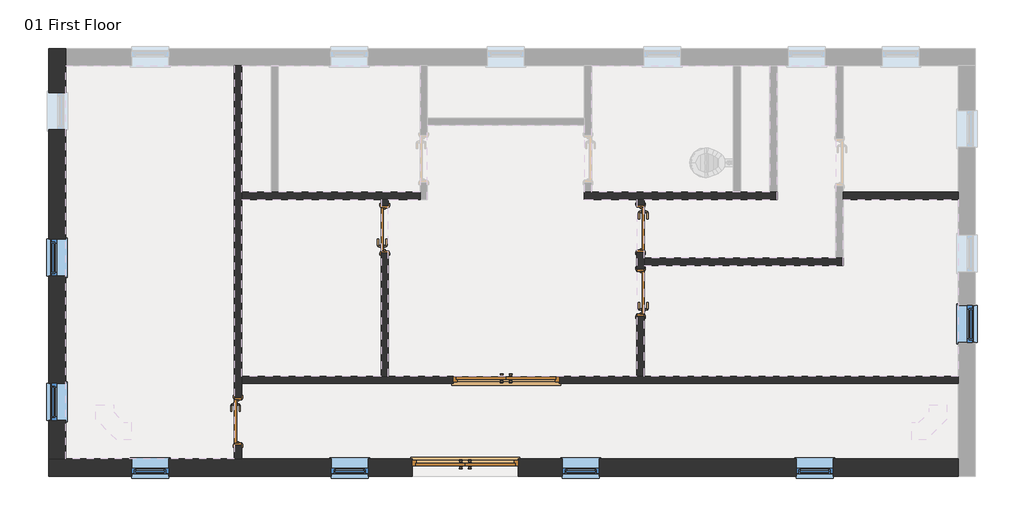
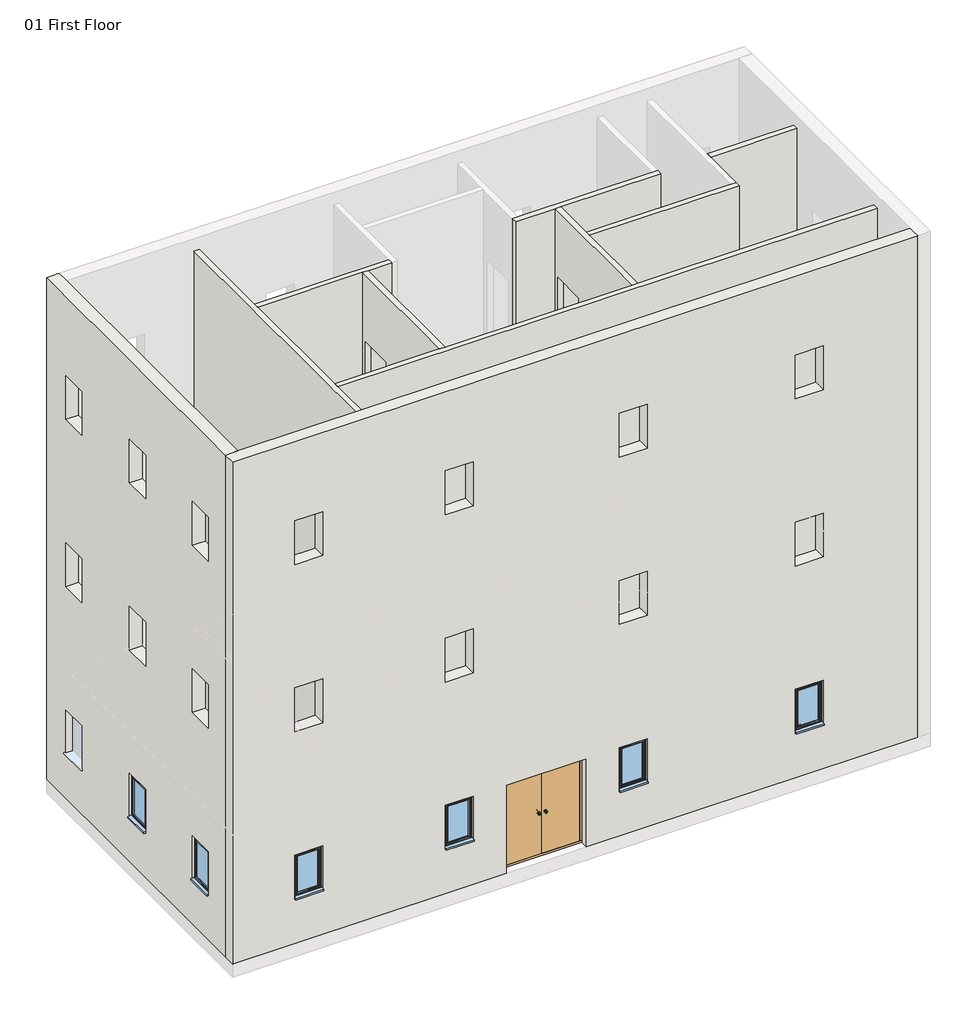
# One storey, part 1 of 2: 10 walls, 7 windows, 6 doors.
"""IFC4 building model written with IfcOpenShell, lengths in millimetres."""

from ifc_helpers import new_model, si_unit, frame, origin, origin_with_axes, place, context, project, spatial, polyline, outline, extrude, faceted_brep, transform, mapped, element, save
from components import extdbl_flush_1810_x_2110mm_6485e741, extdbl_flush_1810_x_2110mm_182ebfd7, intsgl_1_810_x_2110mm_5ef26f82, intsgl_1_810_x_2110mm_60c2a13c, sgl_plain_630_x_1050mm_deep_554a1539

model = new_model("IFC4")

# Units and contexts
model_context = context("Model", 3, world=origin())
ifc_project = project(units=[si_unit("LENGTHUNIT", "METRE", prefix="MILLI")], contexts=[model_context])

# Site, building, storey
site = spatial("IfcSite", under=ifc_project)
building = spatial("IfcBuilding", under=site)
storey = spatial("IfcBuildingStorey", under=building, Name="01 First Floor", Elevation=0.0)

# Doors
placement = place(None, origin())
extdbl_flush_1810_x_2110mm_shape = extdbl_flush_1810_x_2110mm_6485e741(model_context)
element("IfcDoor", 1, ObjectType="ExtDbl Flush : 1810 x 2110mm", at=placement, inside=storey, context=model_context, shape_type="MappedRepresentation", body=[
    mapped(extdbl_flush_1810_x_2110mm_shape, transform((500.7801388, -4965.3924179, 0.0), x_axis=(1.0, 0.0, 0.0), y_axis=(0.0, 1.0, 0.0), z_axis=(0.0, 0.0, 1.0))),
])
extdbl_flush_1810_x_2110mm_2_shape = extdbl_flush_1810_x_2110mm_182ebfd7(model_context)
element("IfcDoor", 2, ObjectType="ExtDbl Flush : 1810 x 2110mm", at=placement, inside=storey, context=model_context, shape_type="MappedRepresentation", body=[
    mapped(extdbl_flush_1810_x_2110mm_2_shape, transform((1196.9801388, -3470.3924179, 0.0), x_axis=(1.0, 0.0, 0.0), y_axis=(0.0, 1.0, 0.0), z_axis=(0.0, 0.0, 1.0))),
])
intsgl_1_810_x_2110mm_shape = intsgl_1_810_x_2110mm_5ef26f82(model_context)
element("IfcDoor", 3, ObjectType="IntSgl (1) : 810 x 2110mm", at=placement, inside=storey, context=model_context, shape_type="MappedRepresentation", body=[
    mapped(intsgl_1_810_x_2110mm_shape, transform((3489.4801388, -1982.8924179, 0.0), x_axis=(0.0, 1.0, 0.0), y_axis=(-1.0, 0.0, 0.0), z_axis=(0.0, 0.0, 1.0))),
])
intsgl_1_810_x_2110mm_2_shape = intsgl_1_810_x_2110mm_60c2a13c(model_context)
element("IfcDoor", 4, ObjectType="IntSgl (1) : 810 x 2110mm", at=placement, inside=storey, context=model_context, shape_type="MappedRepresentation", body=[
    mapped(intsgl_1_810_x_2110mm_2_shape, transform((-870.5198612, -902.8924179, 0.0), x_axis=(0.0, 1.0, 0.0), y_axis=(-1.0, 0.0, 0.0), z_axis=(0.0, 0.0, 1.0))),
])
element("IfcDoor", 5, ObjectType="IntSgl (1) : 810 x 2110mm", at=placement, inside=storey, context=model_context, shape_type="MappedRepresentation", body=[
    mapped(intsgl_1_810_x_2110mm_2_shape, transform((3489.4801388, -890.3924179, 0.0), x_axis=(0.0, -1.0, 0.0), y_axis=(1.0, 0.0, 0.0), z_axis=(0.0, 0.0, 1.0))),
])
element("IfcDoor", 6, ObjectType="IntSgl (1) : 810 x 2110mm", at=placement, inside=storey, context=model_context, shape_type="MappedRepresentation", body=[
    mapped(intsgl_1_810_x_2110mm_shape, transform((-3370.5198612, -4176.6424179, 0.0), x_axis=(0.0, -1.0, 0.0), y_axis=(1.0, 0.0, 0.0), z_axis=(0.0, 0.0, 1.0))),
])

# Walls
element("IfcWall", 7, ObjectType="Cav - 102 75i 100 p - Lwt", at=placement, inside=storey, context=model_context, shape_type="Brep", body=[
    faceted_brep([(1405.7801388, -5110.3924179, 2110.0), (1405.7801388, -5110.3924179, 0.0), (8901.9801388, -5110.3924179, 0.0), (8901.9801388, -5110.3924179, 12000.0), (-6598.0198612, -5110.3924179, 12000.0), (-6598.0198612, -5110.3924179, 0.0), (-404.2198612, -5110.3924179, 0.0), (-404.2198612, -5110.3924179, 2110.0), (6768.3801388, -5110.3924179, 2110.0), (6768.3801388, -5110.3924179, 1060.0), (6138.3801388, -5110.3924179, 1060.0), (6138.3801388, -5110.3924179, 2110.0), (2785.5801388, -5110.3924179, 2110.0), (2785.5801388, -5110.3924179, 1060.0), (2155.5801388, -5110.3924179, 1060.0), (2155.5801388, -5110.3924179, 2110.0), (-1154.0198612, -5110.3924179, 2110.0), (-1154.0198612, -5110.3924179, 1060.0), (-1784.0198612, -5110.3924179, 1060.0), (-1784.0198612, -5110.3924179, 2110.0), (-4555.5198612, -5110.3924179, 2110.0), (-4555.5198612, -5110.3924179, 1060.0), (-5185.5198612, -5110.3924179, 1060.0), (-5185.5198612, -5110.3924179, 2110.0), (-4555.5198612, -5110.3924179, 6110.0), (-4555.5198612, -5110.3924179, 5060.0), (-5185.5198612, -5110.3924179, 5060.0), (-5185.5198612, -5110.3924179, 6110.0), (-1154.0198612, -5110.3924179, 6110.0), (-1154.0198612, -5110.3924179, 5060.0), (-1784.0198612, -5110.3924179, 5060.0), (-1784.0198612, -5110.3924179, 6110.0), (2785.5801388, -5110.3924179, 6110.0), (2785.5801388, -5110.3924179, 5060.0), (2155.5801388, -5110.3924179, 5060.0), (2155.5801388, -5110.3924179, 6110.0), (6768.3801388, -5110.3924179, 6110.0), (6768.3801388, -5110.3924179, 5060.0), (6138.3801388, -5110.3924179, 5060.0), (6138.3801388, -5110.3924179, 6110.0), (-4555.5198612, -5110.3924179, 10110.0), (-4555.5198612, -5110.3924179, 9060.0), (-5185.5198612, -5110.3924179, 9060.0), (-5185.5198612, -5110.3924179, 10110.0), (-1154.0198612, -5110.3924179, 10110.0), (-1154.0198612, -5110.3924179, 9060.0), (-1784.0198612, -5110.3924179, 9060.0), (-1784.0198612, -5110.3924179, 10110.0), (2785.5801388, -5110.3924179, 10110.0), (2785.5801388, -5110.3924179, 9060.0), (2155.5801388, -5110.3924179, 9060.0), (2155.5801388, -5110.3924179, 10110.0), (6768.3801388, -5110.3924179, 10110.0), (6768.3801388, -5110.3924179, 9060.0), (6138.3801388, -5110.3924179, 9060.0), (6138.3801388, -5110.3924179, 10110.0), (8901.9801388, -4820.3924179, 0.0), (1405.7801388, -4820.3924179, 0.0), (1405.7801388, -4820.3924179, 2110.0), (-404.2198612, -4820.3924179, 2110.0), (-404.2198612, -4820.3924179, 0.0), (-3308.0198612, -4820.3924179, 0.0), (-3433.0198612, -4820.3924179, 0.0), (-6308.0198612, -4820.3924179, 0.0), (-6598.0198612, -4820.3924179, 0.0), (-6598.0198612, -4820.3924179, 12000.0), (-6308.0198612, -4820.3924179, 12000.0), (8901.9801388, -4820.3924179, 12000.0), (6768.3801388, -4820.3924179, 2110.0), (6138.3801388, -4820.3924179, 2110.0), (6138.3801388, -4820.3924179, 1060.0), (6768.3801388, -4820.3924179, 1060.0), (2785.5801388, -4820.3924179, 2110.0), (2155.5801388, -4820.3924179, 2110.0), (2155.5801388, -4820.3924179, 1060.0), (2785.5801388, -4820.3924179, 1060.0), (-1154.0198612, -4820.3924179, 2110.0), (-1784.0198612, -4820.3924179, 2110.0), (-1784.0198612, -4820.3924179, 1060.0), (-1154.0198612, -4820.3924179, 1060.0), (-4555.5198612, -4820.3924179, 2110.0), (-5185.5198612, -4820.3924179, 2110.0), (-5185.5198612, -4820.3924179, 1060.0), (-4555.5198612, -4820.3924179, 1060.0), (-4555.5198612, -4820.3924179, 6110.0), (-5185.5198612, -4820.3924179, 6110.0), (-5185.5198612, -4820.3924179, 5060.0), (-4555.5198612, -4820.3924179, 5060.0), (-1154.0198612, -4820.3924179, 6110.0), (-1784.0198612, -4820.3924179, 6110.0), (-1784.0198612, -4820.3924179, 5060.0), (-1154.0198612, -4820.3924179, 5060.0), (2785.5801388, -4820.3924179, 6110.0), (2155.5801388, -4820.3924179, 6110.0), (2155.5801388, -4820.3924179, 5060.0), (2785.5801388, -4820.3924179, 5060.0), (6768.3801388, -4820.3924179, 6110.0), (6138.3801388, -4820.3924179, 6110.0), (6138.3801388, -4820.3924179, 5060.0), (6768.3801388, -4820.3924179, 5060.0), (-4555.5198612, -4820.3924179, 10110.0), (-5185.5198612, -4820.3924179, 10110.0), (-5185.5198612, -4820.3924179, 9060.0), (-4555.5198612, -4820.3924179, 9060.0), (-1154.0198612, -4820.3924179, 10110.0), (-1784.0198612, -4820.3924179, 10110.0), (-1784.0198612, -4820.3924179, 9060.0), (-1154.0198612, -4820.3924179, 9060.0), (2785.5801388, -4820.3924179, 10110.0), (2155.5801388, -4820.3924179, 10110.0), (2155.5801388, -4820.3924179, 9060.0), (2785.5801388, -4820.3924179, 9060.0), (6768.3801388, -4820.3924179, 10110.0), (6138.3801388, -4820.3924179, 10110.0), (6138.3801388, -4820.3924179, 9060.0), (6768.3801388, -4820.3924179, 9060.0)], [[[0, 1, 2, 3, 4, 5, 6, 7], [8, 9, 10, 11], [12, 13, 14, 15], [16, 17, 18, 19], [20, 21, 22, 23], [24, 25, 26, 27], [28, 29, 30, 31], [32, 33, 34, 35], [36, 37, 38, 39], [40, 41, 42, 43], [44, 45, 46, 47], [48, 49, 50, 51], [52, 53, 54, 55]], [[56, 57, 58, 59, 60, 61, 62, 63, 64, 65, 66, 67], [68, 69, 70, 71], [72, 73, 74, 75], [76, 77, 78, 79], [80, 81, 82, 83], [84, 85, 86, 87], [88, 89, 90, 91], [92, 93, 94, 95], [96, 97, 98, 99], [100, 101, 102, 103], [104, 105, 106, 107], [108, 109, 110, 111], [112, 113, 114, 115]], [[6, 5, 64, 63, 62, 61, 60]], [[2, 1, 57, 56]], [[4, 3, 67, 66, 65]], [[5, 4, 65, 64]], [[3, 2, 56, 67]], [[9, 8, 68, 71]], [[10, 9, 71, 70]], [[11, 10, 70, 69]], [[8, 11, 69, 68]], [[13, 12, 72, 75]], [[14, 13, 75, 74]], [[15, 14, 74, 73]], [[12, 15, 73, 72]], [[17, 16, 76, 79]], [[18, 17, 79, 78]], [[19, 18, 78, 77]], [[16, 19, 77, 76]], [[21, 20, 80, 83]], [[22, 21, 83, 82]], [[23, 22, 82, 81]], [[20, 23, 81, 80]], [[60, 59, 7, 6]], [[58, 57, 1, 0]], [[59, 58, 0, 7]], [[25, 24, 84, 87]], [[26, 25, 87, 86]], [[27, 26, 86, 85]], [[24, 27, 85, 84]], [[29, 28, 88, 91]], [[30, 29, 91, 90]], [[31, 30, 90, 89]], [[28, 31, 89, 88]], [[33, 32, 92, 95]], [[34, 33, 95, 94]], [[35, 34, 94, 93]], [[32, 35, 93, 92]], [[37, 36, 96, 99]], [[38, 37, 99, 98]], [[39, 38, 98, 97]], [[36, 39, 97, 96]], [[41, 40, 100, 103]], [[42, 41, 103, 102]], [[43, 42, 102, 101]], [[40, 43, 101, 100]], [[45, 44, 104, 107]], [[46, 45, 107, 106]], [[47, 46, 106, 105]], [[44, 47, 105, 104]], [[49, 48, 108, 111]], [[50, 49, 111, 110]], [[51, 50, 110, 109]], [[48, 51, 109, 108]], [[53, 52, 112, 115]], [[54, 53, 115, 114]], [[55, 54, 114, 113]], [[52, 55, 113, 112]]]),
])
element("IfcWall", 8, ObjectType="Cav - 102 75i 100 p - Lwt", at=placement, inside=storey, context=model_context, shape_type="Brep", body=[
    faceted_brep([(-6598.0198612, 2179.6075821, 0.0), (-6598.0198612, -4820.3924179, 0.0), (-6598.0198612, -4820.3924179, 12000.0), (-6598.0198612, 2179.6075821, 12000.0), (-6598.0198612, -4159.9924179, 2110.0), (-6598.0198612, -4159.9924179, 1060.0), (-6598.0198612, -3529.9924179, 1060.0), (-6598.0198612, -3529.9924179, 2110.0), (-6598.0198612, -1701.1924179, 2110.0), (-6598.0198612, -1701.1924179, 1060.0), (-6598.0198612, -1071.1924179, 1060.0), (-6598.0198612, -1071.1924179, 2110.0), (-6598.0198612, 1432.4075821, 2110.0), (-6598.0198612, 802.4075821, 2110.0), (-6598.0198612, 802.4075821, 1060.0), (-6598.0198612, 1432.4075821, 1060.0), (-6598.0198612, 1432.4075821, 6110.0), (-6598.0198612, 802.4075821, 6110.0), (-6598.0198612, 802.4075821, 5060.0), (-6598.0198612, 1432.4075821, 5060.0), (-6598.0198612, -1701.1924179, 6110.0), (-6598.0198612, -1701.1924179, 5060.0), (-6598.0198612, -1071.1924179, 5060.0), (-6598.0198612, -1071.1924179, 6110.0), (-6598.0198612, -4159.9924179, 6110.0), (-6598.0198612, -4159.9924179, 5060.0), (-6598.0198612, -3529.9924179, 5060.0), (-6598.0198612, -3529.9924179, 6110.0), (-6598.0198612, 1432.4075821, 10110.0), (-6598.0198612, 802.4075821, 10110.0), (-6598.0198612, 802.4075821, 9060.0), (-6598.0198612, 1432.4075821, 9060.0), (-6598.0198612, -1701.1924179, 10110.0), (-6598.0198612, -1701.1924179, 9060.0), (-6598.0198612, -1071.1924179, 9060.0), (-6598.0198612, -1071.1924179, 10110.0), (-6598.0198612, -4159.9924179, 10110.0), (-6598.0198612, -4159.9924179, 9060.0), (-6598.0198612, -3529.9924179, 9060.0), (-6598.0198612, -3529.9924179, 10110.0), (-6308.0198612, 2179.6075821, 0.0), (-6308.0198612, 2179.6075821, 12000.0), (-6308.0198612, 1889.6075821, 12000.0), (-6308.0198612, -4820.3924179, 12000.0), (-6308.0198612, -4820.3924179, 0.0), (-6308.0198612, 1889.6075821, 0.0), (-6308.0198612, -4159.9924179, 2110.0), (-6308.0198612, -3529.9924179, 2110.0), (-6308.0198612, -3529.9924179, 1060.0), (-6308.0198612, -4159.9924179, 1060.0), (-6308.0198612, -1701.1924179, 2110.0), (-6308.0198612, -1071.1924179, 2110.0), (-6308.0198612, -1071.1924179, 1060.0), (-6308.0198612, -1701.1924179, 1060.0), (-6308.0198612, 1432.4075821, 2110.0), (-6308.0198612, 1432.4075821, 1060.0), (-6308.0198612, 802.4075821, 1060.0), (-6308.0198612, 802.4075821, 2110.0), (-6308.0198612, 1432.4075821, 6110.0), (-6308.0198612, 1432.4075821, 5060.0), (-6308.0198612, 802.4075821, 5060.0), (-6308.0198612, 802.4075821, 6110.0), (-6308.0198612, -1701.1924179, 6110.0), (-6308.0198612, -1071.1924179, 6110.0), (-6308.0198612, -1071.1924179, 5060.0), (-6308.0198612, -1701.1924179, 5060.0), (-6308.0198612, -4159.9924179, 6110.0), (-6308.0198612, -3529.9924179, 6110.0), (-6308.0198612, -3529.9924179, 5060.0), (-6308.0198612, -4159.9924179, 5060.0), (-6308.0198612, 1432.4075821, 10110.0), (-6308.0198612, 1432.4075821, 9060.0), (-6308.0198612, 802.4075821, 9060.0), (-6308.0198612, 802.4075821, 10110.0), (-6308.0198612, -1701.1924179, 10110.0), (-6308.0198612, -1071.1924179, 10110.0), (-6308.0198612, -1071.1924179, 9060.0), (-6308.0198612, -1701.1924179, 9060.0), (-6308.0198612, -4159.9924179, 10110.0), (-6308.0198612, -3529.9924179, 10110.0), (-6308.0198612, -3529.9924179, 9060.0), (-6308.0198612, -4159.9924179, 9060.0)], [[[0, 1, 2, 3], [4, 5, 6, 7], [8, 9, 10, 11], [12, 13, 14, 15], [16, 17, 18, 19], [20, 21, 22, 23], [24, 25, 26, 27], [28, 29, 30, 31], [32, 33, 34, 35], [36, 37, 38, 39]], [[40, 41, 42, 43, 44, 45], [46, 47, 48, 49], [50, 51, 52, 53], [54, 55, 56, 57], [58, 59, 60, 61], [62, 63, 64, 65], [66, 67, 68, 69], [70, 71, 72, 73], [74, 75, 76, 77], [78, 79, 80, 81]], [[1, 0, 40, 45, 44]], [[3, 2, 43, 42, 41]], [[0, 3, 41, 40]], [[2, 1, 44, 43]], [[5, 4, 46, 49]], [[6, 5, 49, 48]], [[7, 6, 48, 47]], [[4, 7, 47, 46]], [[9, 8, 50, 53]], [[10, 9, 53, 52]], [[11, 10, 52, 51]], [[8, 11, 51, 50]], [[55, 54, 12, 15]], [[56, 55, 15, 14]], [[57, 56, 14, 13]], [[54, 57, 13, 12]], [[59, 58, 16, 19]], [[60, 59, 19, 18]], [[61, 60, 18, 17]], [[58, 61, 17, 16]], [[21, 20, 62, 65]], [[22, 21, 65, 64]], [[23, 22, 64, 63]], [[20, 23, 63, 62]], [[25, 24, 66, 69]], [[26, 25, 69, 68]], [[27, 26, 68, 67]], [[24, 27, 67, 66]], [[71, 70, 28, 31]], [[72, 71, 31, 30]], [[73, 72, 30, 29]], [[70, 73, 29, 28]], [[33, 32, 74, 77]], [[34, 33, 77, 76]], [[35, 34, 76, 75]], [[32, 35, 75, 74]], [[37, 36, 78, 81]], [[38, 37, 81, 80]], [[39, 38, 80, 79]], [[36, 39, 79, 78]]]),
])
element("IfcWall", 9, ObjectType="Partn - p 100 p - Block", at=placement, inside=storey, context=model_context, shape_type="Brep", body=[
    faceted_brep([(-270.5198612, -265.3924179, 0.0), (-2683.0198612, -265.3924179, 0.0), (-2808.0198612, -265.3924179, 0.0), (-3308.0198612, -265.3924179, 0.0), (-3308.0198612, -265.3924179, 11700.0), (-270.5198612, -265.3924179, 11700.0), (-270.5198612, -390.3924179, 0.0), (-270.5198612, -390.3924179, 11700.0), (-808.0198612, -390.3924179, 11700.0), (-933.0198612, -390.3924179, 11700.0), (-3308.0198612, -390.3924179, 11700.0), (-3308.0198612, -390.3924179, 0.0), (-933.0198612, -390.3924179, 0.0), (-808.0198612, -390.3924179, 0.0)], [[[0, 1, 2, 3, 4, 5]], [[6, 7, 8, 9, 10, 11, 12, 13]], [[3, 2, 1, 0, 6, 13, 12, 11]], [[5, 4, 10, 9, 8, 7]], [[4, 3, 11, 10]], [[0, 5, 7, 6]]]),
])
element("IfcWall", 10, ObjectType="Partn - p 100 p - Block", at=placement, inside=storey, context=model_context, shape_type="Brep", body=[
    faceted_brep([(-3308.0198612, 1889.6075821, 11700.0), (-3308.0198612, -265.3924179, 11700.0), (-3308.0198612, -390.3924179, 11700.0), (-3308.0198612, -3407.8924179, 11700.0), (-3308.0198612, -3532.8924179, 11700.0), (-3308.0198612, -4820.3924179, 11700.0), (-3308.0198612, -4820.3924179, 0.0), (-3308.0198612, -4581.6424179, 0.0), (-3308.0198612, -4581.6424179, 2110.0), (-3308.0198612, -3771.6424179, 2110.0), (-3308.0198612, -3771.6424179, 0.0), (-3308.0198612, -3532.8924179, 0.0), (-3308.0198612, -3407.8924179, 0.0), (-3308.0198612, -390.3924179, 0.0), (-3308.0198612, -265.3924179, 0.0), (-3308.0198612, 1889.6075821, 0.0), (-3308.0198612, -4581.6424179, 4000.0), (-3308.0198612, -4581.6424179, 6110.0), (-3308.0198612, -3771.6424179, 6110.0), (-3308.0198612, -3771.6424179, 4000.0), (-3308.0198612, -4581.6424179, 8000.0), (-3308.0198612, -4581.6424179, 10110.0), (-3308.0198612, -3771.6424179, 10110.0), (-3308.0198612, -3771.6424179, 8000.0), (-3433.0198612, -4820.3924179, 11700.0), (-3433.0198612, 1889.6075821, 11700.0), (-3433.0198612, 1889.6075821, 0.0), (-3433.0198612, -3771.6424179, 0.0), (-3433.0198612, -3771.6424179, 2110.0), (-3433.0198612, -4581.6424179, 2110.0), (-3433.0198612, -4581.6424179, 0.0), (-3433.0198612, -4820.3924179, 0.0), (-3433.0198612, -4581.6424179, 4000.0), (-3433.0198612, -3771.6424179, 4000.0), (-3433.0198612, -3771.6424179, 6110.0), (-3433.0198612, -4581.6424179, 6110.0), (-3433.0198612, -4581.6424179, 8000.0), (-3433.0198612, -3771.6424179, 8000.0), (-3433.0198612, -3771.6424179, 10110.0), (-3433.0198612, -4581.6424179, 10110.0)], [[[0, 1, 2, 3, 4, 5, 6, 7, 8, 9, 10, 11, 12, 13, 14, 15], [16, 17, 18, 19], [20, 21, 22, 23]], [[24, 25, 26, 27, 28, 29, 30, 31], [32, 33, 34, 35], [36, 37, 38, 39]], [[26, 15, 14, 13, 12, 11, 10, 27]], [[6, 31, 30, 7]], [[5, 4, 3, 2, 1, 0, 25, 24]], [[0, 15, 26, 25]], [[6, 5, 24, 31]], [[29, 8, 7, 30]], [[8, 29, 28, 9]], [[9, 28, 27, 10]], [[17, 16, 32, 35]], [[18, 17, 35, 34]], [[19, 18, 34, 33]], [[16, 19, 33, 32]], [[21, 20, 36, 39]], [[22, 21, 39, 38]], [[23, 22, 38, 37]], [[20, 23, 37, 36]]]),
])
element("IfcWall", 11, ObjectType="Partn - p 100 p - Block", at=placement, inside=storey, context=model_context, shape_type="Brep", body=[
    faceted_brep([(2529.4801388, -390.3924179, 0.0), (3426.9801388, -390.3924179, 0.0), (3551.9801388, -390.3924179, 0.0), (5816.9801388, -390.3924179, 0.0), (5816.9801388, -390.3924179, 11700.0), (3551.9801388, -390.3924179, 11700.0), (3426.9801388, -390.3924179, 11700.0), (2529.4801388, -390.3924179, 11700.0), (2529.4801388, -265.3924179, 0.0), (2529.4801388, -265.3924179, 11700.0), (2654.4801388, -265.3924179, 11700.0), (5691.9801388, -265.3924179, 11700.0), (5816.9801388, -265.3924179, 11700.0), (5816.9801388, -265.3924179, 0.0), (5691.9801388, -265.3924179, 0.0), (5191.9801388, -265.3924179, 0.0), (5066.9801388, -265.3924179, 0.0), (2654.4801388, -265.3924179, 0.0)], [[[0, 1, 2, 3, 4, 5, 6, 7]], [[8, 9, 10, 11, 12, 13, 14, 15, 16, 17]], [[3, 2, 1, 0, 8, 17, 16, 15, 14, 13]], [[7, 6, 5, 4, 12, 11, 10, 9]], [[4, 3, 13, 12]], [[0, 7, 9, 8]]]),
])
element("IfcWall", 12, ObjectType="Partn - p 100 p - Block", at=placement, inside=storey, context=model_context, shape_type="SweptSolid", body=[
    extrude(outline(polyline([(-3407.8924179, 11700.0), (-390.3924179, 11700.0), (-390.3924179, 0.0), (-497.8924179, 0.0), (-497.8924179, 2110.0), (-1307.8924179, 2110.0), (-1307.8924179, 0.0), (-3407.8924179, 0.0), (-3407.8924179, 11700.0)]), holes=[polyline([(-497.8924179, 4000.0), (-497.8924179, 6110.0), (-1307.8924179, 6110.0), (-1307.8924179, 4000.0), (-497.8924179, 4000.0)]), polyline([(-497.8924179, 8000.0), (-497.8924179, 10110.0), (-1307.8924179, 10110.0), (-1307.8924179, 8000.0), (-497.8924179, 8000.0)])]), frame((-933.0198612, 0.0, 0.0), z_axis=(1.0, 0.0, 0.0), x_axis=(0.0, 1.0, 0.0)), (0.0, 0.0, 1.0), 125.0),
])
element("IfcWall", 13, ObjectType="Partn - p 100 p - Block", at=placement, inside=storey, context=model_context, shape_type="Brep", body=[
    faceted_brep([(2101.9801388, -3532.8924179, 2110.0), (2101.9801388, -3532.8924179, 0.0), (8901.9801388, -3532.8924179, 0.0), (8901.9801388, -3532.8924179, 11700.0), (-3308.0198612, -3532.8924179, 11700.0), (-3308.0198612, -3532.8924179, 0.0), (291.9801388, -3532.8924179, 0.0), (291.9801388, -3532.8924179, 2110.0), (291.9801388, -3532.8924179, 6110.0), (2101.9801388, -3532.8924179, 6110.0), (2101.9801388, -3532.8924179, 4000.0), (291.9801388, -3532.8924179, 4000.0), (291.9801388, -3532.8924179, 10110.0), (2101.9801388, -3532.8924179, 10110.0), (2101.9801388, -3532.8924179, 8000.0), (291.9801388, -3532.8924179, 8000.0), (8901.9801388, -3407.8924179, 0.0), (3551.9801388, -3407.8924179, 0.0), (3426.9801388, -3407.8924179, 0.0), (2101.9801388, -3407.8924179, 0.0), (2101.9801388, -3407.8924179, 2110.0), (291.9801388, -3407.8924179, 2110.0), (291.9801388, -3407.8924179, 0.0), (-808.0198612, -3407.8924179, 0.0), (-933.0198612, -3407.8924179, 0.0), (-3308.0198612, -3407.8924179, 0.0), (-3308.0198612, -3407.8924179, 11700.0), (-933.0198612, -3407.8924179, 11700.0), (-808.0198612, -3407.8924179, 11700.0), (3426.9801388, -3407.8924179, 11700.0), (3551.9801388, -3407.8924179, 11700.0), (8901.9801388, -3407.8924179, 11700.0), (291.9801388, -3407.8924179, 6110.0), (291.9801388, -3407.8924179, 4000.0), (2101.9801388, -3407.8924179, 4000.0), (2101.9801388, -3407.8924179, 6110.0), (291.9801388, -3407.8924179, 10110.0), (291.9801388, -3407.8924179, 8000.0), (2101.9801388, -3407.8924179, 8000.0), (2101.9801388, -3407.8924179, 10110.0)], [[[0, 1, 2, 3, 4, 5, 6, 7], [8, 9, 10, 11], [12, 13, 14, 15]], [[16, 17, 18, 19, 20, 21, 22, 23, 24, 25, 26, 27, 28, 29, 30, 31], [32, 33, 34, 35], [36, 37, 38, 39]], [[6, 5, 25, 24, 23, 22]], [[2, 1, 19, 18, 17, 16]], [[4, 3, 31, 30, 29, 28, 27, 26]], [[3, 2, 16, 31]], [[22, 21, 7, 6]], [[20, 19, 1, 0]], [[21, 20, 0, 7]], [[5, 4, 26, 25]], [[33, 32, 8, 11]], [[34, 33, 11, 10]], [[35, 34, 10, 9]], [[32, 35, 9, 8]], [[37, 36, 12, 15]], [[38, 37, 15, 14]], [[39, 38, 14, 13]], [[36, 39, 13, 12]]]),
])
element("IfcWall", 14, ObjectType="Partn - p 100 p - Block", at=placement, inside=storey, context=model_context, shape_type="Brep", body=[
    faceted_brep([(3551.9801388, -390.3924179, 11700.0), (3551.9801388, -1390.3924179, 11700.0), (3551.9801388, -1515.3924179, 11700.0), (3551.9801388, -3407.8924179, 11700.0), (3551.9801388, -3407.8924179, 0.0), (3551.9801388, -2387.8924179, 0.0), (3551.9801388, -2387.8924179, 2110.0), (3551.9801388, -1577.8924179, 2110.0), (3551.9801388, -1577.8924179, 0.0), (3551.9801388, -1515.3924179, 0.0), (3551.9801388, -1390.3924179, 0.0), (3551.9801388, -1295.3924179, 0.0), (3551.9801388, -1295.3924179, 2110.0), (3551.9801388, -485.3924179, 2110.0), (3551.9801388, -485.3924179, 0.0), (3551.9801388, -390.3924179, 0.0), (3551.9801388, -1295.3924179, 4000.0), (3551.9801388, -1295.3924179, 6110.0), (3551.9801388, -485.3924179, 6110.0), (3551.9801388, -485.3924179, 4000.0), (3551.9801388, -1577.8924179, 4000.0), (3551.9801388, -2387.8924179, 4000.0), (3551.9801388, -2387.8924179, 6110.0), (3551.9801388, -1577.8924179, 6110.0), (3551.9801388, -1295.3924179, 8000.0), (3551.9801388, -1295.3924179, 10110.0), (3551.9801388, -485.3924179, 10110.0), (3551.9801388, -485.3924179, 8000.0), (3551.9801388, -1577.8924179, 8000.0), (3551.9801388, -2387.8924179, 8000.0), (3551.9801388, -2387.8924179, 10110.0), (3551.9801388, -1577.8924179, 10110.0), (3426.9801388, -3407.8924179, 11700.0), (3426.9801388, -390.3924179, 11700.0), (3426.9801388, -390.3924179, 0.0), (3426.9801388, -485.3924179, 0.0), (3426.9801388, -485.3924179, 2110.0), (3426.9801388, -1295.3924179, 2110.0), (3426.9801388, -1295.3924179, 0.0), (3426.9801388, -1577.8924179, 0.0), (3426.9801388, -1577.8924179, 2110.0), (3426.9801388, -2387.8924179, 2110.0), (3426.9801388, -2387.8924179, 0.0), (3426.9801388, -3407.8924179, 0.0), (3426.9801388, -1295.3924179, 4000.0), (3426.9801388, -485.3924179, 4000.0), (3426.9801388, -485.3924179, 6110.0), (3426.9801388, -1295.3924179, 6110.0), (3426.9801388, -1577.8924179, 4000.0), (3426.9801388, -1577.8924179, 6110.0), (3426.9801388, -2387.8924179, 6110.0), (3426.9801388, -2387.8924179, 4000.0), (3426.9801388, -1295.3924179, 8000.0), (3426.9801388, -485.3924179, 8000.0), (3426.9801388, -485.3924179, 10110.0), (3426.9801388, -1295.3924179, 10110.0), (3426.9801388, -1577.8924179, 8000.0), (3426.9801388, -1577.8924179, 10110.0), (3426.9801388, -2387.8924179, 10110.0), (3426.9801388, -2387.8924179, 8000.0)], [[[0, 1, 2, 3, 4, 5, 6, 7, 8, 9, 10, 11, 12, 13, 14, 15], [16, 17, 18, 19], [20, 21, 22, 23], [24, 25, 26, 27], [28, 29, 30, 31]], [[32, 33, 34, 35, 36, 37, 38, 39, 40, 41, 42, 43], [44, 45, 46, 47], [48, 49, 50, 51], [52, 53, 54, 55], [56, 57, 58, 59]], [[34, 15, 14, 35]], [[4, 43, 42, 5]], [[8, 39, 38, 11, 10, 9]], [[3, 2, 1, 0, 33, 32]], [[0, 15, 34, 33]], [[4, 3, 32, 43]], [[7, 40, 39, 8]], [[40, 7, 6, 41]], [[41, 6, 5, 42]], [[37, 12, 11, 38]], [[12, 37, 36, 13]], [[13, 36, 35, 14]], [[17, 16, 44, 47]], [[18, 17, 47, 46]], [[19, 18, 46, 45]], [[16, 19, 45, 44]], [[49, 48, 20, 23]], [[50, 49, 23, 22]], [[51, 50, 22, 21]], [[48, 51, 21, 20]], [[25, 24, 52, 55]], [[26, 25, 55, 54]], [[27, 26, 54, 53]], [[24, 27, 53, 52]], [[57, 56, 28, 31]], [[58, 57, 31, 30]], [[59, 58, 30, 29]], [[56, 59, 29, 28]]]),
])
element("IfcWall", 15, ObjectType="Partn - p 100 p - Block", at=placement, inside=storey, context=model_context, shape_type="SweptSolid", body=[
    extrude(outline(polyline([(8901.9801388, -390.3924179), (6941.9801388, -390.3924179), (6941.9801388, -265.3924179), (8901.9801388, -265.3924179), (8901.9801388, -390.3924179)])), origin_with_axes(), (0.0, 0.0, 1.0), 11700.0),
])
element("IfcWall", 16, ObjectType="Partn - p 100 p - Block", at=placement, inside=storey, context=model_context, shape_type="Brep", body=[
    faceted_brep([(3551.9801388, -1515.3924179, 0.0), (6941.9801388, -1515.3924179, 0.0), (6941.9801388, -1515.3924179, 11700.0), (3551.9801388, -1515.3924179, 11700.0), (3551.9801388, -1390.3924179, 0.0), (3551.9801388, -1390.3924179, 11700.0), (6816.9801388, -1390.3924179, 11700.0), (6941.9801388, -1390.3924179, 11700.0), (6941.9801388, -1390.3924179, 0.0), (6816.9801388, -1390.3924179, 0.0)], [[[0, 1, 2, 3]], [[4, 5, 6, 7, 8, 9]], [[1, 0, 4, 9, 8]], [[3, 2, 7, 6, 5]], [[0, 3, 5, 4]], [[2, 1, 8, 7]]]),
])

# Windows
sgl_plain_630_x_1050mm_deep_shape = sgl_plain_630_x_1050mm_deep_554a1539(model_context)
element("IfcWindow", 17, ObjectType="Sgl Plain : 630 x 1050mm Deep", at=placement, inside=storey, context=model_context, shape_type="MappedRepresentation", body=[
    mapped(sgl_plain_630_x_1050mm_deep_shape, transform((6453.3801388, -4956.9358501, 0.0), x_axis=(-1.0, 0.0, 0.0), y_axis=(0.0, -1.0, 0.0), z_axis=(0.0, 0.0, 1.0))),
])
element("IfcWindow", 18, ObjectType="Sgl Plain : 630 x 1050mm Deep", at=placement, inside=storey, context=model_context, shape_type="MappedRepresentation", body=[
    mapped(sgl_plain_630_x_1050mm_deep_shape, transform((2470.5801388, -4956.9358501, 0.0), x_axis=(-1.0, 0.0, 0.0), y_axis=(0.0, -1.0, 0.0), z_axis=(0.0, 0.0, 1.0))),
])
element("IfcWindow", 19, ObjectType="Sgl Plain : 630 x 1050mm Deep", at=placement, inside=storey, context=model_context, shape_type="MappedRepresentation", body=[
    mapped(sgl_plain_630_x_1050mm_deep_shape, transform((-1469.0198612, -4956.9358501, 0.0), x_axis=(-1.0, 0.0, 0.0), y_axis=(0.0, -1.0, 0.0), z_axis=(0.0, 0.0, 1.0))),
])
element("IfcWindow", 20, ObjectType="Sgl Plain : 630 x 1050mm Deep", at=placement, inside=storey, context=model_context, shape_type="MappedRepresentation", body=[
    mapped(sgl_plain_630_x_1050mm_deep_shape, transform((-4870.5198612, -4956.9358501, 0.0), x_axis=(-1.0, 0.0, 0.0), y_axis=(0.0, -1.0, 0.0), z_axis=(0.0, 0.0, 1.0))),
])
element("IfcWindow", 21, ObjectType="Sgl Plain : 630 x 1050mm Deep", at=placement, inside=storey, context=model_context, shape_type="MappedRepresentation", body=[
    mapped(sgl_plain_630_x_1050mm_deep_shape, transform((-6444.5632933, -3844.9924179, 0.0), x_axis=(0.0, 1.0, 0.0), y_axis=(-1.0, 0.0, 0.0), z_axis=(0.0, 0.0, 1.0))),
])
element("IfcWindow", 22, ObjectType="Sgl Plain : 630 x 1050mm Deep", at=placement, inside=storey, context=model_context, shape_type="MappedRepresentation", body=[
    mapped(sgl_plain_630_x_1050mm_deep_shape, transform((-6444.5632933, -1386.1924179, 0.0), x_axis=(0.0, 1.0, 0.0), y_axis=(-1.0, 0.0, 0.0), z_axis=(0.0, 0.0, 1.0))),
])
element("IfcWindow", 23, ObjectType="Sgl Plain : 630 x 1050mm Deep", at=placement, inside=storey, context=model_context, shape_type="MappedRepresentation", body=[
    mapped(sgl_plain_630_x_1050mm_deep_shape, transform((9038.523571, -2518.9424179, 0.0), x_axis=(0.0, -1.0, 0.0), y_axis=(1.0, 0.0, 0.0), z_axis=(0.0, 0.0, 1.0))),
])

save(model, "model.ifc")
